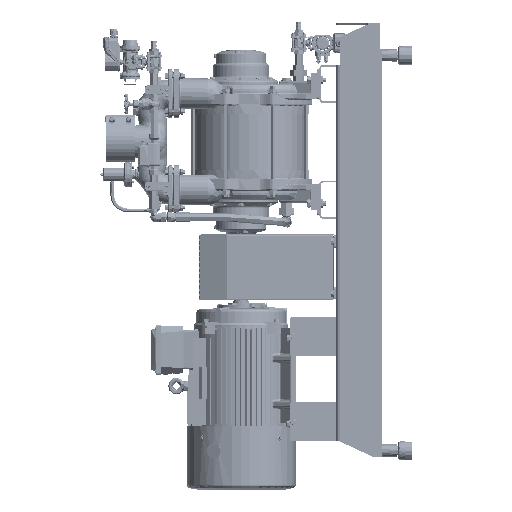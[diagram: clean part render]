
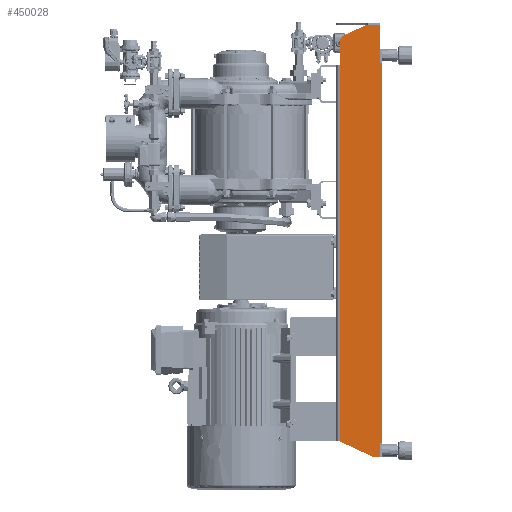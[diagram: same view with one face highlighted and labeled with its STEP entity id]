
A CAD part, left-side view. The second image highlights one B-rep face of the part: STEP entity #450028.
In plain terms, the highlighted planar face has unit normal (-1, 0, 0).
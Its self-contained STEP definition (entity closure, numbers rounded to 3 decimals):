
#29133=PLANE('',#479751);
#51441=FACE_OUTER_BOUND('',#77608,.T.);
#77608=EDGE_LOOP('',(#334708,#334709,#334710,#334711,#334712,#334713,#334714,
#334715,#334716,#334717,#334718,#334719));
#108287=LINE('',#839353,#141830);
#108976=LINE('',#841531,#142519);
#108977=LINE('',#841533,#142520);
#108978=LINE('',#841534,#142521);
#108979=LINE('',#841536,#142522);
#108980=LINE('',#841540,#142523);
#108981=LINE('',#841541,#142524);
#108982=LINE('',#841543,#142525);
#108983=LINE('',#841545,#142526);
#108984=LINE('',#841547,#142527);
#108985=LINE('',#841548,#142528);
#141830=VECTOR('',#544483,10.);
#142519=VECTOR('',#546364,10.);
#142520=VECTOR('',#546365,10.);
#142521=VECTOR('',#546366,10.);
#142522=VECTOR('',#546367,10.);
#142523=VECTOR('',#546370,10.);
#142524=VECTOR('',#546371,10.);
#142525=VECTOR('',#546372,10.);
#142526=VECTOR('',#546373,10.);
#142527=VECTOR('',#546374,10.);
#142528=VECTOR('',#546375,10.);
#167840=CIRCLE('',#479752,25.);
#193844=VERTEX_POINT('',#839350);
#193845=VERTEX_POINT('',#839352);
#194478=VERTEX_POINT('',#841523);
#194479=VERTEX_POINT('',#841529);
#194480=VERTEX_POINT('',#841530);
#194481=VERTEX_POINT('',#841532);
#194482=VERTEX_POINT('',#841535);
#194483=VERTEX_POINT('',#841537);
#194484=VERTEX_POINT('',#841539);
#194485=VERTEX_POINT('',#841542);
#194486=VERTEX_POINT('',#841544);
#194487=VERTEX_POINT('',#841546);
#243796=EDGE_CURVE('',#193844,#193845,#108287,.T.);
#244817=EDGE_CURVE('',#194479,#194480,#108976,.T.);
#244818=EDGE_CURVE('',#194479,#194481,#108977,.T.);
#244819=EDGE_CURVE('',#193845,#194481,#108978,.T.);
#244820=EDGE_CURVE('',#194482,#193844,#108979,.T.);
#244821=EDGE_CURVE('',#194483,#194482,#167840,.T.);
#244822=EDGE_CURVE('',#194484,#194483,#108980,.T.);
#244823=EDGE_CURVE('',#194484,#194478,#108981,.T.);
#244824=EDGE_CURVE('',#194485,#194478,#108982,.T.);
#244825=EDGE_CURVE('',#194486,#194485,#108983,.T.);
#244826=EDGE_CURVE('',#194486,#194487,#108984,.T.);
#244827=EDGE_CURVE('',#194487,#194480,#108985,.T.);
#334708=ORIENTED_EDGE('',*,*,#244817,.F.);
#334709=ORIENTED_EDGE('',*,*,#244818,.T.);
#334710=ORIENTED_EDGE('',*,*,#244819,.F.);
#334711=ORIENTED_EDGE('',*,*,#243796,.F.);
#334712=ORIENTED_EDGE('',*,*,#244820,.F.);
#334713=ORIENTED_EDGE('',*,*,#244821,.F.);
#334714=ORIENTED_EDGE('',*,*,#244822,.F.);
#334715=ORIENTED_EDGE('',*,*,#244823,.T.);
#334716=ORIENTED_EDGE('',*,*,#244824,.F.);
#334717=ORIENTED_EDGE('',*,*,#244825,.F.);
#334718=ORIENTED_EDGE('',*,*,#244826,.T.);
#334719=ORIENTED_EDGE('',*,*,#244827,.T.);
#450028=ADVANCED_FACE('',(#51441),#29133,.T.);
#479751=AXIS2_PLACEMENT_3D('',#841528,#546362,#546363);
#479752=AXIS2_PLACEMENT_3D('',#841538,#546368,#546369);
#544483=DIRECTION('',(0.,-1.,0.));
#546362=DIRECTION('center_axis',(-1.,0.,0.));
#546363=DIRECTION('ref_axis',(0.,0.,
-1.));
#546364=DIRECTION('',(0.,0.,-1.));
#546365=DIRECTION('',(0.,1.,0.));
#546366=DIRECTION('',(0.,0.,-1.));
#546367=DIRECTION('',(0.,-0.906,0.423));
#546368=DIRECTION('center_axis',(1.,0.,0.));
#546369=DIRECTION('ref_axis',(0.,0.843,0.537));
#546370=DIRECTION('',(0.,0.,1.));
#546371=DIRECTION('',(0.,0.,-1.));
#546372=DIRECTION('',(0.,0.906,0.423));
#546373=DIRECTION('',(0.,1.,0.));
#546374=DIRECTION('',(0.,0.,1.));
#546375=DIRECTION('',(0.,-1.,0.));
#839350=CARTESIAN_POINT('',(-254.,-3.804,666.766));
#839352=CARTESIAN_POINT('',(-254.,-49.,666.766));
#839353=CARTESIAN_POINT('',(-254.,-3.804,666.766));
#841523=CARTESIAN_POINT('',(-254.,83.,-692.234));
#841528=CARTESIAN_POINT('Origin',(-254.,348.586,-186.984));
#841529=CARTESIAN_POINT('',(-254.,-55.,542.766));
#841530=CARTESIAN_POINT('',(-254.,-55.,-698.234));
#841531=CARTESIAN_POINT('',(-254.,-55.,-980.734));
#841532=CARTESIAN_POINT('',(-254.,-49.,542.766));
#841533=CARTESIAN_POINT('',(-254.,146.793,542.766));
#841534=CARTESIAN_POINT('',(-254.,-49.,666.766));
#841535=CARTESIAN_POINT('',(-254.,68.565,633.02));
#841536=CARTESIAN_POINT('',(-254.,83.,626.289));
#841537=CARTESIAN_POINT('',(-254.,83.,610.362));
#841538=CARTESIAN_POINT('Origin',(-254.,58.,610.362));
#841539=CARTESIAN_POINT('',(-254.,83.,536.766));
#841540=CARTESIAN_POINT('',(-254.,83.,536.766));
#841541=CARTESIAN_POINT('',(-254.,83.,-186.984));
#841542=CARTESIAN_POINT('',(-254.,-24.225,-742.234));
#841543=CARTESIAN_POINT('',(-254.,-24.225,-742.234));
#841544=CARTESIAN_POINT('',(-254.,-49.,-742.234));
#841545=CARTESIAN_POINT('',(-254.,-55.,-742.234));
#841546=CARTESIAN_POINT('',(-254.,-49.,-698.234));
#841547=CARTESIAN_POINT('',(-254.,-49.,-449.359));
#841548=CARTESIAN_POINT('',(-254.,146.793,-698.234));
